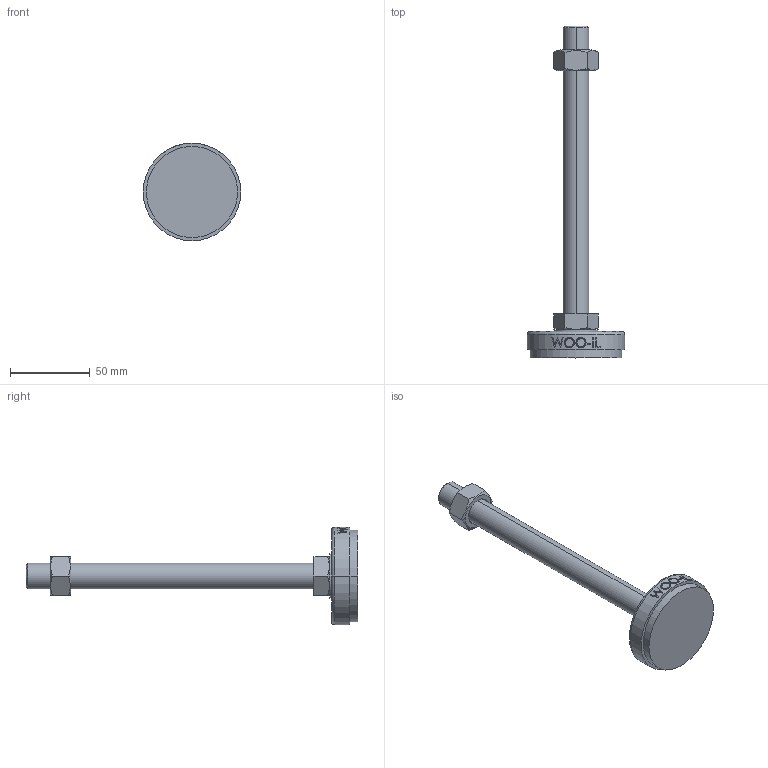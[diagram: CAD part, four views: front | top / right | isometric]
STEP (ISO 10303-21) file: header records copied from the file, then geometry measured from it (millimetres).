
FILE_DESCRIPTION (( 'STEP AP214' ), '1' );
FILE_NAME ('NS61-M16-180.step', '2021-01-11T05:45:51', ( '' ), ( '' ), 'SwSTEP 2.0', 'SolidWorks 2019', '' );
FILE_SCHEMA (( 'AUTOMOTIVE_DESIGN' ));
Length unit declared in the file: millimetre
Products named in the file (2): NS61-M16-180
Bounding box: 61 x 207.5 x 61 mm (x, y, z)
Volume: 91702.7 mm3; surface area: 21902.2 mm2
Topology: 3 solids, 3 shells, 96 faces, 223 edges, 144 vertices
Faces by surface type: plane 48, cylinder 18, bspline 16, cone 12, torus 2
Entity records: 4252 total; most frequent: CARTESIAN_POINT 2127, ORIENTED_EDGE 446, DIRECTION 381, EDGE_CURVE 223, VERTEX_POINT 144, AXIS2_PLACEMENT_3D 142, EDGE_LOOP 109, LINE 97
